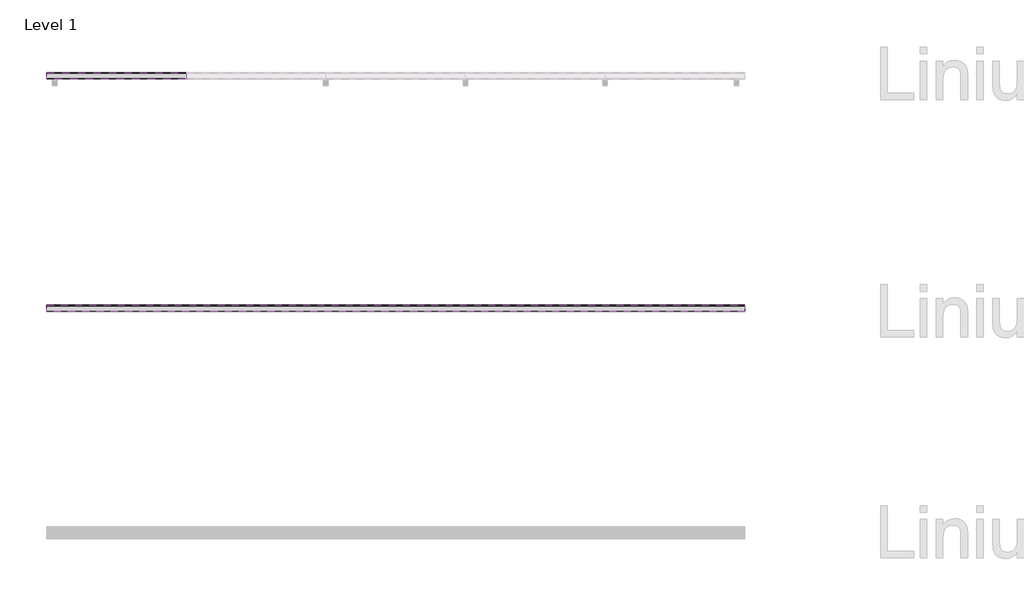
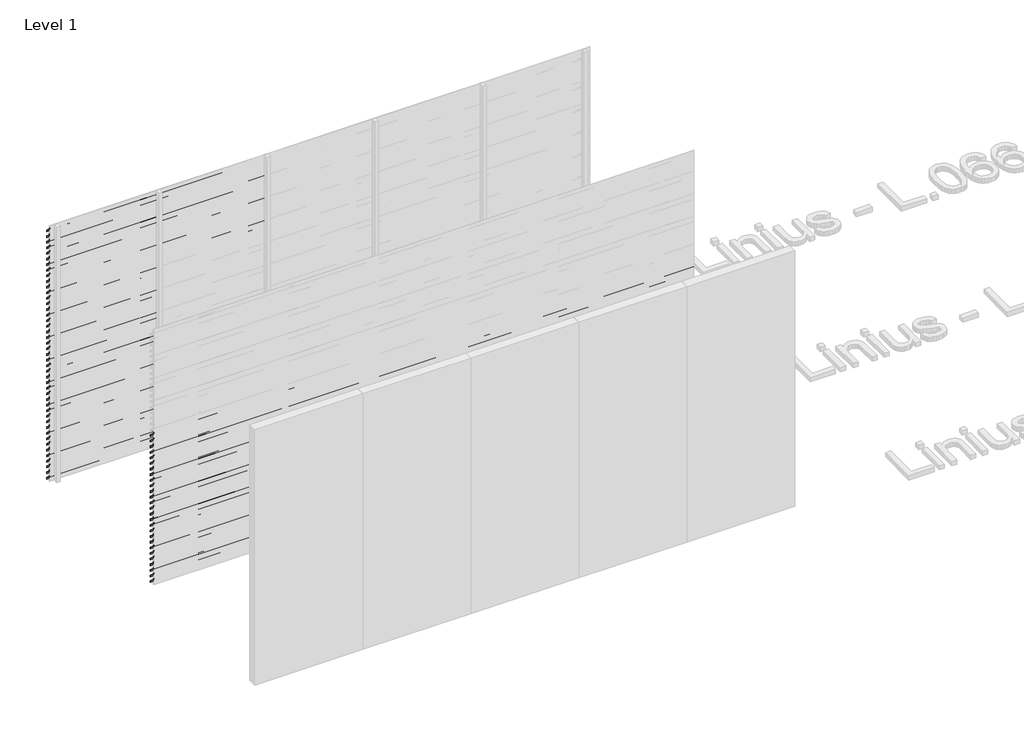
# One storey, part 67 of 540: 85 proxies.
"""IFC4 building model written with IfcOpenShell, lengths in millimetres."""

from ifc_helpers import new_model, si_unit, frame, origin, place, context, project, spatial, polyline, outline, extrude, element, save

model = new_model("IFC4")

# Units and contexts
model_context = context("Model", 3, world=origin())
ifc_project = project(units=[si_unit("LENGTHUNIT", "METRE", prefix="MILLI")], contexts=[model_context])

# Site, building, storey
site = spatial("IfcSite", under=ifc_project)
building = spatial("IfcBuilding", under=site)
storey = spatial("IfcBuildingStorey", under=building, Name="Level 1", Elevation=0.0)

# Proxies
placement = place(None, origin())
element("IfcBuildingElementProxy", 1, Name="Wall Sweeps", at=placement, inside=storey, context=model_context, shape_type="SweptSolid", body=[
    extrude(outline(polyline([(36581.0540136, 2913.5), (36581.0540136, 2893.5), (36579.8040136, 2894.2216933), (36579.8040136, 2912.7872415), (36526.0540136, 2950.3158044), (36526.0540136, 2970.0), (36527.3040136, 2970.0), (36527.3040136, 2951.0285629), (36581.0540136, 2913.5)])), frame((466.6208097, 0.0, 0.0), z_axis=(1.0, 0.0, 0.0), x_axis=(0.0, 1.0, 0.0)), (0.0, 0.0, 1.0), 1200.0000002),
])
element("IfcBuildingElementProxy", 2, Name="Wall Sweeps", at=placement, inside=storey, context=model_context, shape_type="SweptSolid", body=[
    extrude(outline(polyline([(36581.0540136, 2847.5), (36581.0540136, 2827.5), (36579.8040136, 2828.2216933), (36579.8040136, 2846.7872415), (36526.0540136, 2884.3158044), (36526.0540136, 2904.0), (36527.3040136, 2904.0), (36527.3040136, 2885.0285629), (36581.0540136, 2847.5)])), frame((466.6208097, 0.0, 0.0), z_axis=(1.0, 0.0, 0.0), x_axis=(0.0, 1.0, 0.0)), (0.0, 0.0, 1.0), 1200.0000002),
])
element("IfcBuildingElementProxy", 3, Name="Wall Sweeps", at=placement, inside=storey, context=model_context, shape_type="SweptSolid", body=[
    extrude(outline(polyline([(36581.0540136, 2781.5), (36581.0540136, 2761.5), (36579.8040136, 2762.2216933), (36579.8040136, 2780.7872415), (36526.0540136, 2818.3158044), (36526.0540136, 2838.0), (36527.3040136, 2838.0), (36527.3040136, 2819.0285629), (36581.0540136, 2781.5)])), frame((466.6208097, 0.0, 0.0), z_axis=(1.0, 0.0, 0.0), x_axis=(0.0, 1.0, 0.0)), (0.0, 0.0, 1.0), 1200.0000002),
])
element("IfcBuildingElementProxy", 4, Name="Wall Sweeps", at=placement, inside=storey, context=model_context, shape_type="SweptSolid", body=[
    extrude(outline(polyline([(36581.0540136, 2715.5), (36581.0540136, 2695.5), (36579.8040136, 2696.2216933), (36579.8040136, 2714.7872415), (36526.0540136, 2752.3158044), (36526.0540136, 2772.0), (36527.3040136, 2772.0), (36527.3040136, 2753.0285629), (36581.0540136, 2715.5)])), frame((466.6208097, 0.0, 0.0), z_axis=(1.0, 0.0, 0.0), x_axis=(0.0, 1.0, 0.0)), (0.0, 0.0, 1.0), 1200.0000002),
])
element("IfcBuildingElementProxy", 5, Name="Wall Sweeps", at=placement, inside=storey, context=model_context, shape_type="SweptSolid", body=[
    extrude(outline(polyline([(36581.0540136, 2649.5), (36581.0540136, 2629.5), (36579.8040136, 2630.2216933), (36579.8040136, 2648.7872415), (36526.0540136, 2686.3158044), (36526.0540136, 2706.0), (36527.3040136, 2706.0), (36527.3040136, 2687.0285629), (36581.0540136, 2649.5)])), frame((466.6208097, 0.0, 0.0), z_axis=(1.0, 0.0, 0.0), x_axis=(0.0, 1.0, 0.0)), (0.0, 0.0, 1.0), 1200.0000002),
])
element("IfcBuildingElementProxy", 6, Name="Wall Sweeps", at=placement, inside=storey, context=model_context, shape_type="SweptSolid", body=[
    extrude(outline(polyline([(36581.0540136, 2583.5), (36581.0540136, 2563.5), (36579.8040136, 2564.2216933), (36579.8040136, 2582.7872415), (36526.0540136, 2620.3158044), (36526.0540136, 2640.0), (36527.3040136, 2640.0), (36527.3040136, 2621.0285629), (36581.0540136, 2583.5)])), frame((466.6208097, 0.0, 0.0), z_axis=(1.0, 0.0, 0.0), x_axis=(0.0, 1.0, 0.0)), (0.0, 0.0, 1.0), 1200.0000002),
])
element("IfcBuildingElementProxy", 7, Name="Wall Sweeps", at=placement, inside=storey, context=model_context, shape_type="SweptSolid", body=[
    extrude(outline(polyline([(36581.0540136, 2517.5), (36581.0540136, 2497.5), (36579.8040136, 2498.2216933), (36579.8040136, 2516.7872415), (36526.0540136, 2554.3158044), (36526.0540136, 2574.0), (36527.3040136, 2574.0), (36527.3040136, 2555.0285629), (36581.0540136, 2517.5)])), frame((466.6208097, 0.0, 0.0), z_axis=(1.0, 0.0, 0.0), x_axis=(0.0, 1.0, 0.0)), (0.0, 0.0, 1.0), 1200.0000002),
])
element("IfcBuildingElementProxy", 8, Name="Wall Sweeps", at=placement, inside=storey, context=model_context, shape_type="SweptSolid", body=[
    extrude(outline(polyline([(36581.0540136, 2451.5), (36581.0540136, 2431.5), (36579.8040136, 2432.2216933), (36579.8040136, 2450.7872415), (36526.0540136, 2488.3158044), (36526.0540136, 2508.0), (36527.3040136, 2508.0), (36527.3040136, 2489.0285629), (36581.0540136, 2451.5)])), frame((466.6208097, 0.0, 0.0), z_axis=(1.0, 0.0, 0.0), x_axis=(0.0, 1.0, 0.0)), (0.0, 0.0, 1.0), 1200.0000002),
])
element("IfcBuildingElementProxy", 9, Name="Wall Sweeps", at=placement, inside=storey, context=model_context, shape_type="SweptSolid", body=[
    extrude(outline(polyline([(36581.0540136, 2385.5), (36581.0540136, 2365.5), (36579.8040136, 2366.2216933), (36579.8040136, 2384.7872415), (36526.0540136, 2422.3158044), (36526.0540136, 2442.0), (36527.3040136, 2442.0), (36527.3040136, 2423.0285629), (36581.0540136, 2385.5)])), frame((466.6208097, 0.0, 0.0), z_axis=(1.0, 0.0, 0.0), x_axis=(0.0, 1.0, 0.0)), (0.0, 0.0, 1.0), 1200.0000002),
])
element("IfcBuildingElementProxy", 10, Name="Wall Sweeps", at=placement, inside=storey, context=model_context, shape_type="SweptSolid", body=[
    extrude(outline(polyline([(36581.0540136, 2319.5), (36581.0540136, 2299.5), (36579.8040136, 2300.2216933), (36579.8040136, 2318.7872415), (36526.0540136, 2356.3158044), (36526.0540136, 2376.0), (36527.3040136, 2376.0), (36527.3040136, 2357.0285629), (36581.0540136, 2319.5)])), frame((466.6208097, 0.0, 0.0), z_axis=(1.0, 0.0, 0.0), x_axis=(0.0, 1.0, 0.0)), (0.0, 0.0, 1.0), 1200.0000002),
])
element("IfcBuildingElementProxy", 11, Name="Wall Sweeps", at=placement, inside=storey, context=model_context, shape_type="SweptSolid", body=[
    extrude(outline(polyline([(36581.0540136, 2253.5), (36581.0540136, 2233.5), (36579.8040136, 2234.2216933), (36579.8040136, 2252.7872415), (36526.0540136, 2290.3158044), (36526.0540136, 2310.0), (36527.3040136, 2310.0), (36527.3040136, 2291.0285629), (36581.0540136, 2253.5)])), frame((466.6208097, 0.0, 0.0), z_axis=(1.0, 0.0, 0.0), x_axis=(0.0, 1.0, 0.0)), (0.0, 0.0, 1.0), 1200.0000002),
])
element("IfcBuildingElementProxy", 12, Name="Wall Sweeps", at=placement, inside=storey, context=model_context, shape_type="SweptSolid", body=[
    extrude(outline(polyline([(36581.0540136, 2187.5), (36581.0540136, 2167.5), (36579.8040136, 2168.2216933), (36579.8040136, 2186.7872415), (36526.0540136, 2224.3158044), (36526.0540136, 2244.0), (36527.3040136, 2244.0), (36527.3040136, 2225.0285629), (36581.0540136, 2187.5)])), frame((466.6208097, 0.0, 0.0), z_axis=(1.0, 0.0, 0.0), x_axis=(0.0, 1.0, 0.0)), (0.0, 0.0, 1.0), 1200.0000002),
])
element("IfcBuildingElementProxy", 13, Name="Wall Sweeps", at=placement, inside=storey, context=model_context, shape_type="SweptSolid", body=[
    extrude(outline(polyline([(36581.0540136, 2121.5), (36581.0540136, 2101.5), (36579.8040136, 2102.2216933), (36579.8040136, 2120.7872415), (36526.0540136, 2158.3158044), (36526.0540136, 2178.0), (36527.3040136, 2178.0), (36527.3040136, 2159.0285629), (36581.0540136, 2121.5)])), frame((466.6208097, 0.0, 0.0), z_axis=(1.0, 0.0, 0.0), x_axis=(0.0, 1.0, 0.0)), (0.0, 0.0, 1.0), 1200.0000002),
])
element("IfcBuildingElementProxy", 14, Name="Wall Sweeps", at=placement, inside=storey, context=model_context, shape_type="SweptSolid", body=[
    extrude(outline(polyline([(36581.0540136, 2055.5), (36581.0540136, 2035.5), (36579.8040136, 2036.2216933), (36579.8040136, 2054.7872415), (36526.0540136, 2092.3158044), (36526.0540136, 2112.0), (36527.3040136, 2112.0), (36527.3040136, 2093.0285629), (36581.0540136, 2055.5)])), frame((466.6208097, 0.0, 0.0), z_axis=(1.0, 0.0, 0.0), x_axis=(0.0, 1.0, 0.0)), (0.0, 0.0, 1.0), 1200.0000002),
])
element("IfcBuildingElementProxy", 15, Name="Wall Sweeps", at=placement, inside=storey, context=model_context, shape_type="SweptSolid", body=[
    extrude(outline(polyline([(36581.0540136, 1989.5), (36581.0540136, 1969.5), (36579.8040136, 1970.2216933), (36579.8040136, 1988.7872415), (36526.0540136, 2026.3158044), (36526.0540136, 2046.0), (36527.3040136, 2046.0), (36527.3040136, 2027.0285629), (36581.0540136, 1989.5)])), frame((466.6208097, 0.0, 0.0), z_axis=(1.0, 0.0, 0.0), x_axis=(0.0, 1.0, 0.0)), (0.0, 0.0, 1.0), 1200.0000002),
])
element("IfcBuildingElementProxy", 16, Name="Wall Sweeps", at=placement, inside=storey, context=model_context, shape_type="SweptSolid", body=[
    extrude(outline(polyline([(36581.0540136, 1923.5), (36581.0540136, 1903.5), (36579.8040136, 1904.2216933), (36579.8040136, 1922.7872415), (36526.0540136, 1960.3158044), (36526.0540136, 1980.0), (36527.3040136, 1980.0), (36527.3040136, 1961.0285629), (36581.0540136, 1923.5)])), frame((466.6208097, 0.0, 0.0), z_axis=(1.0, 0.0, 0.0), x_axis=(0.0, 1.0, 0.0)), (0.0, 0.0, 1.0), 1200.0000002),
])
element("IfcBuildingElementProxy", 17, Name="Wall Sweeps", at=placement, inside=storey, context=model_context, shape_type="SweptSolid", body=[
    extrude(outline(polyline([(36581.0540136, 1857.5), (36581.0540136, 1837.5), (36579.8040136, 1838.2216933), (36579.8040136, 1856.7872415), (36526.0540136, 1894.3158044), (36526.0540136, 1914.0), (36527.3040136, 1914.0), (36527.3040136, 1895.0285629), (36581.0540136, 1857.5)])), frame((466.6208097, 0.0, 0.0), z_axis=(1.0, 0.0, 0.0), x_axis=(0.0, 1.0, 0.0)), (0.0, 0.0, 1.0), 1200.0000002),
])
element("IfcBuildingElementProxy", 18, Name="Wall Sweeps", at=placement, inside=storey, context=model_context, shape_type="SweptSolid", body=[
    extrude(outline(polyline([(36581.0540136, 1791.5), (36581.0540136, 1771.5), (36579.8040136, 1772.2216933), (36579.8040136, 1790.7872415), (36526.0540136, 1828.3158044), (36526.0540136, 1848.0), (36527.3040136, 1848.0), (36527.3040136, 1829.0285629), (36581.0540136, 1791.5)])), frame((466.6208097, 0.0, 0.0), z_axis=(1.0, 0.0, 0.0), x_axis=(0.0, 1.0, 0.0)), (0.0, 0.0, 1.0), 1200.0000002),
])
element("IfcBuildingElementProxy", 19, Name="Wall Sweeps", at=placement, inside=storey, context=model_context, shape_type="SweptSolid", body=[
    extrude(outline(polyline([(36581.0540136, 1725.5), (36581.0540136, 1705.5), (36579.8040136, 1706.2216933), (36579.8040136, 1724.7872415), (36526.0540136, 1762.3158044), (36526.0540136, 1782.0), (36527.3040136, 1782.0), (36527.3040136, 1763.0285629), (36581.0540136, 1725.5)])), frame((466.6208097, 0.0, 0.0), z_axis=(1.0, 0.0, 0.0), x_axis=(0.0, 1.0, 0.0)), (0.0, 0.0, 1.0), 1200.0000002),
])
element("IfcBuildingElementProxy", 20, Name="Wall Sweeps", at=placement, inside=storey, context=model_context, shape_type="SweptSolid", body=[
    extrude(outline(polyline([(36581.0540136, 1659.5), (36581.0540136, 1639.5), (36579.8040136, 1640.2216933), (36579.8040136, 1658.7872415), (36526.0540136, 1696.3158044), (36526.0540136, 1716.0), (36527.3040136, 1716.0), (36527.3040136, 1697.0285629), (36581.0540136, 1659.5)])), frame((466.6208097, 0.0, 0.0), z_axis=(1.0, 0.0, 0.0), x_axis=(0.0, 1.0, 0.0)), (0.0, 0.0, 1.0), 1200.0000002),
])
element("IfcBuildingElementProxy", 21, Name="Wall Sweeps", at=placement, inside=storey, context=model_context, shape_type="SweptSolid", body=[
    extrude(outline(polyline([(36581.0540136, 1593.5), (36581.0540136, 1573.5), (36579.8040136, 1574.2216933), (36579.8040136, 1592.7872415), (36526.0540136, 1630.3158044), (36526.0540136, 1650.0), (36527.3040136, 1650.0), (36527.3040136, 1631.0285629), (36581.0540136, 1593.5)])), frame((466.6208097, 0.0, 0.0), z_axis=(1.0, 0.0, 0.0), x_axis=(0.0, 1.0, 0.0)), (0.0, 0.0, 1.0), 1200.0000002),
])
element("IfcBuildingElementProxy", 22, Name="Wall Sweeps", at=placement, inside=storey, context=model_context, shape_type="SweptSolid", body=[
    extrude(outline(polyline([(36581.0540136, 1527.5), (36581.0540136, 1507.5), (36579.8040136, 1508.2216933), (36579.8040136, 1526.7872415), (36526.0540136, 1564.3158044), (36526.0540136, 1584.0), (36527.3040136, 1584.0), (36527.3040136, 1565.0285629), (36581.0540136, 1527.5)])), frame((466.6208097, 0.0, 0.0), z_axis=(1.0, 0.0, 0.0), x_axis=(0.0, 1.0, 0.0)), (0.0, 0.0, 1.0), 1200.0000002),
])
element("IfcBuildingElementProxy", 23, Name="Wall Sweeps", at=placement, inside=storey, context=model_context, shape_type="SweptSolid", body=[
    extrude(outline(polyline([(36581.0540136, 1461.5), (36581.0540136, 1441.5), (36579.8040136, 1442.2216933), (36579.8040136, 1460.7872415), (36526.0540136, 1498.3158044), (36526.0540136, 1518.0), (36527.3040136, 1518.0), (36527.3040136, 1499.0285629), (36581.0540136, 1461.5)])), frame((466.6208097, 0.0, 0.0), z_axis=(1.0, 0.0, 0.0), x_axis=(0.0, 1.0, 0.0)), (0.0, 0.0, 1.0), 1200.0000002),
])
element("IfcBuildingElementProxy", 24, Name="Wall Sweeps", at=placement, inside=storey, context=model_context, shape_type="SweptSolid", body=[
    extrude(outline(polyline([(36581.0540136, 1395.5), (36581.0540136, 1375.5), (36579.8040136, 1376.2216933), (36579.8040136, 1394.7872415), (36526.0540136, 1432.3158044), (36526.0540136, 1452.0), (36527.3040136, 1452.0), (36527.3040136, 1433.0285629), (36581.0540136, 1395.5)])), frame((466.6208097, 0.0, 0.0), z_axis=(1.0, 0.0, 0.0), x_axis=(0.0, 1.0, 0.0)), (0.0, 0.0, 1.0), 1200.0000002),
])
element("IfcBuildingElementProxy", 25, Name="Wall Sweeps", at=placement, inside=storey, context=model_context, shape_type="SweptSolid", body=[
    extrude(outline(polyline([(36581.0540136, 1329.5), (36581.0540136, 1309.5), (36579.8040136, 1310.2216933), (36579.8040136, 1328.7872415), (36526.0540136, 1366.3158044), (36526.0540136, 1386.0), (36527.3040136, 1386.0), (36527.3040136, 1367.0285629), (36581.0540136, 1329.5)])), frame((466.6208097, 0.0, 0.0), z_axis=(1.0, 0.0, 0.0), x_axis=(0.0, 1.0, 0.0)), (0.0, 0.0, 1.0), 1200.0000002),
])
element("IfcBuildingElementProxy", 26, Name="Wall Sweeps", at=placement, inside=storey, context=model_context, shape_type="SweptSolid", body=[
    extrude(outline(polyline([(36581.0540136, 1263.5), (36581.0540136, 1243.5), (36579.8040136, 1244.2216933), (36579.8040136, 1262.7872415), (36526.0540136, 1300.3158044), (36526.0540136, 1320.0), (36527.3040136, 1320.0), (36527.3040136, 1301.0285629), (36581.0540136, 1263.5)])), frame((466.6208097, 0.0, 0.0), z_axis=(1.0, 0.0, 0.0), x_axis=(0.0, 1.0, 0.0)), (0.0, 0.0, 1.0), 1200.0000002),
])
element("IfcBuildingElementProxy", 27, Name="Wall Sweeps", at=placement, inside=storey, context=model_context, shape_type="SweptSolid", body=[
    extrude(outline(polyline([(36581.0540136, 1197.5), (36581.0540136, 1177.5), (36579.8040136, 1178.2216933), (36579.8040136, 1196.7872415), (36526.0540136, 1234.3158044), (36526.0540136, 1254.0), (36527.3040136, 1254.0), (36527.3040136, 1235.0285629), (36581.0540136, 1197.5)])), frame((466.6208097, 0.0, 0.0), z_axis=(1.0, 0.0, 0.0), x_axis=(0.0, 1.0, 0.0)), (0.0, 0.0, 1.0), 1200.0000002),
])
element("IfcBuildingElementProxy", 28, Name="Wall Sweeps", at=placement, inside=storey, context=model_context, shape_type="SweptSolid", body=[
    extrude(outline(polyline([(36581.0540136, 1131.5), (36581.0540136, 1111.5), (36579.8040136, 1112.2216933), (36579.8040136, 1130.7872415), (36526.0540136, 1168.3158044), (36526.0540136, 1188.0), (36527.3040136, 1188.0), (36527.3040136, 1169.0285629), (36581.0540136, 1131.5)])), frame((466.6208097, 0.0, 0.0), z_axis=(1.0, 0.0, 0.0), x_axis=(0.0, 1.0, 0.0)), (0.0, 0.0, 1.0), 1200.0000002),
])
element("IfcBuildingElementProxy", 29, Name="Wall Sweeps", at=placement, inside=storey, context=model_context, shape_type="SweptSolid", body=[
    extrude(outline(polyline([(36581.0540136, 1065.5), (36581.0540136, 1045.5), (36579.8040136, 1046.2216933), (36579.8040136, 1064.7872415), (36526.0540136, 1102.3158044), (36526.0540136, 1122.0), (36527.3040136, 1122.0), (36527.3040136, 1103.0285629), (36581.0540136, 1065.5)])), frame((466.6208097, 0.0, 0.0), z_axis=(1.0, 0.0, 0.0), x_axis=(0.0, 1.0, 0.0)), (0.0, 0.0, 1.0), 1200.0000002),
])
element("IfcBuildingElementProxy", 30, Name="Wall Sweeps", at=placement, inside=storey, context=model_context, shape_type="SweptSolid", body=[
    extrude(outline(polyline([(36581.0540136, 999.5), (36581.0540136, 979.5), (36579.8040136, 980.2216933), (36579.8040136, 998.7872415), (36526.0540136, 1036.3158044), (36526.0540136, 1056.0), (36527.3040136, 1056.0), (36527.3040136, 1037.0285629), (36581.0540136, 999.5)])), frame((466.6208097, 0.0, 0.0), z_axis=(1.0, 0.0, 0.0), x_axis=(0.0, 1.0, 0.0)), (0.0, 0.0, 1.0), 1200.0000002),
])
element("IfcBuildingElementProxy", 31, Name="Wall Sweeps", at=placement, inside=storey, context=model_context, shape_type="SweptSolid", body=[
    extrude(outline(polyline([(36581.0540136, 933.5), (36581.0540136, 913.5), (36579.8040136, 914.2216933), (36579.8040136, 932.7872415), (36526.0540136, 970.3158044), (36526.0540136, 990.0), (36527.3040136, 990.0), (36527.3040136, 971.0285629), (36581.0540136, 933.5)])), frame((466.6208097, 0.0, 0.0), z_axis=(1.0, 0.0, 0.0), x_axis=(0.0, 1.0, 0.0)), (0.0, 0.0, 1.0), 1200.0000002),
])
element("IfcBuildingElementProxy", 32, Name="Wall Sweeps", at=placement, inside=storey, context=model_context, shape_type="SweptSolid", body=[
    extrude(outline(polyline([(36581.0540136, 867.5), (36581.0540136, 847.5), (36579.8040136, 848.2216933), (36579.8040136, 866.7872415), (36526.0540136, 904.3158044), (36526.0540136, 924.0), (36527.3040136, 924.0), (36527.3040136, 905.0285629), (36581.0540136, 867.5)])), frame((466.6208097, 0.0, 0.0), z_axis=(1.0, 0.0, 0.0), x_axis=(0.0, 1.0, 0.0)), (0.0, 0.0, 1.0), 1200.0000002),
])
element("IfcBuildingElementProxy", 33, Name="Wall Sweeps", at=placement, inside=storey, context=model_context, shape_type="SweptSolid", body=[
    extrude(outline(polyline([(36581.0540136, 801.5), (36581.0540136, 781.5), (36579.8040136, 782.2216933), (36579.8040136, 800.7872415), (36526.0540136, 838.3158044), (36526.0540136, 858.0), (36527.3040136, 858.0), (36527.3040136, 839.0285629), (36581.0540136, 801.5)])), frame((466.6208097, 0.0, 0.0), z_axis=(1.0, 0.0, 0.0), x_axis=(0.0, 1.0, 0.0)), (0.0, 0.0, 1.0), 1200.0000002),
])
element("IfcBuildingElementProxy", 34, Name="Wall Sweeps", at=placement, inside=storey, context=model_context, shape_type="SweptSolid", body=[
    extrude(outline(polyline([(36581.0540136, 735.5), (36581.0540136, 715.5), (36579.8040136, 716.2216933), (36579.8040136, 734.7872415), (36526.0540136, 772.3158044), (36526.0540136, 792.0), (36527.3040136, 792.0), (36527.3040136, 773.0285629), (36581.0540136, 735.5)])), frame((466.6208097, 0.0, 0.0), z_axis=(1.0, 0.0, 0.0), x_axis=(0.0, 1.0, 0.0)), (0.0, 0.0, 1.0), 1200.0000002),
])
element("IfcBuildingElementProxy", 35, Name="Wall Sweeps", at=placement, inside=storey, context=model_context, shape_type="SweptSolid", body=[
    extrude(outline(polyline([(36581.0540136, 669.5), (36581.0540136, 649.5), (36579.8040136, 650.2216933), (36579.8040136, 668.7872415), (36526.0540136, 706.3158044), (36526.0540136, 726.0), (36527.3040136, 726.0), (36527.3040136, 707.0285629), (36581.0540136, 669.5)])), frame((466.6208097, 0.0, 0.0), z_axis=(1.0, 0.0, 0.0), x_axis=(0.0, 1.0, 0.0)), (0.0, 0.0, 1.0), 1200.0000002),
])
element("IfcBuildingElementProxy", 36, Name="Wall Sweeps", at=placement, inside=storey, context=model_context, shape_type="SweptSolid", body=[
    extrude(outline(polyline([(36581.0540136, 603.5), (36581.0540136, 583.5), (36579.8040136, 584.2216933), (36579.8040136, 602.7872415), (36526.0540136, 640.3158044), (36526.0540136, 660.0), (36527.3040136, 660.0), (36527.3040136, 641.0285629), (36581.0540136, 603.5)])), frame((466.6208097, 0.0, 0.0), z_axis=(1.0, 0.0, 0.0), x_axis=(0.0, 1.0, 0.0)), (0.0, 0.0, 1.0), 1200.0000002),
])
element("IfcBuildingElementProxy", 37, Name="Wall Sweeps", at=placement, inside=storey, context=model_context, shape_type="SweptSolid", body=[
    extrude(outline(polyline([(36581.0540136, 537.5), (36581.0540136, 517.5), (36579.8040136, 518.2216933), (36579.8040136, 536.7872415), (36526.0540136, 574.3158044), (36526.0540136, 594.0), (36527.3040136, 594.0), (36527.3040136, 575.0285629), (36581.0540136, 537.5)])), frame((466.6208097, 0.0, 0.0), z_axis=(1.0, 0.0, 0.0), x_axis=(0.0, 1.0, 0.0)), (0.0, 0.0, 1.0), 1200.0000002),
])
element("IfcBuildingElementProxy", 38, Name="Wall Sweeps", at=placement, inside=storey, context=model_context, shape_type="SweptSolid", body=[
    extrude(outline(polyline([(36581.0540136, 471.5), (36581.0540136, 451.5), (36579.8040136, 452.2216933), (36579.8040136, 470.7872415), (36526.0540136, 508.3158044), (36526.0540136, 528.0), (36527.3040136, 528.0), (36527.3040136, 509.0285629), (36581.0540136, 471.5)])), frame((466.6208097, 0.0, 0.0), z_axis=(1.0, 0.0, 0.0), x_axis=(0.0, 1.0, 0.0)), (0.0, 0.0, 1.0), 1200.0000002),
])
element("IfcBuildingElementProxy", 39, Name="Wall Sweeps", at=placement, inside=storey, context=model_context, shape_type="SweptSolid", body=[
    extrude(outline(polyline([(36581.0540136, 405.5), (36581.0540136, 385.5), (36579.8040136, 386.2216933), (36579.8040136, 404.7872415), (36526.0540136, 442.3158044), (36526.0540136, 462.0), (36527.3040136, 462.0), (36527.3040136, 443.0285629), (36581.0540136, 405.5)])), frame((466.6208097, 0.0, 0.0), z_axis=(1.0, 0.0, 0.0), x_axis=(0.0, 1.0, 0.0)), (0.0, 0.0, 1.0), 1200.0000002),
])
element("IfcBuildingElementProxy", 40, Name="Wall Sweeps", at=placement, inside=storey, context=model_context, shape_type="SweptSolid", body=[
    extrude(outline(polyline([(36581.0540136, 339.5), (36581.0540136, 319.5), (36579.8040136, 320.2216933), (36579.8040136, 338.7872415), (36526.0540136, 376.3158044), (36526.0540136, 396.0), (36527.3040136, 396.0), (36527.3040136, 377.0285629), (36581.0540136, 339.5)])), frame((466.6208097, 0.0, 0.0), z_axis=(1.0, 0.0, 0.0), x_axis=(0.0, 1.0, 0.0)), (0.0, 0.0, 1.0), 1200.0000002),
])
element("IfcBuildingElementProxy", 41, Name="Wall Sweeps", at=placement, inside=storey, context=model_context, shape_type="SweptSolid", body=[
    extrude(outline(polyline([(36581.0540136, 273.5), (36581.0540136, 253.5), (36579.8040136, 254.2216933), (36579.8040136, 272.7872415), (36526.0540136, 310.3158044), (36526.0540136, 330.0), (36527.3040136, 330.0), (36527.3040136, 311.0285629), (36581.0540136, 273.5)])), frame((466.6208097, 0.0, 0.0), z_axis=(1.0, 0.0, 0.0), x_axis=(0.0, 1.0, 0.0)), (0.0, 0.0, 1.0), 1200.0000002),
])
element("IfcBuildingElementProxy", 42, Name="Wall Sweeps", at=placement, inside=storey, context=model_context, shape_type="SweptSolid", body=[
    extrude(outline(polyline([(36581.0540136, 207.5), (36581.0540136, 187.5), (36579.8040136, 188.2216933), (36579.8040136, 206.7872415), (36526.0540136, 244.3158044), (36526.0540136, 264.0), (36527.3040136, 264.0), (36527.3040136, 245.0285629), (36581.0540136, 207.5)])), frame((466.6208097, 0.0, 0.0), z_axis=(1.0, 0.0, 0.0), x_axis=(0.0, 1.0, 0.0)), (0.0, 0.0, 1.0), 1200.0000002),
])
element("IfcBuildingElementProxy", 43, Name="Wall Sweeps", at=placement, inside=storey, context=model_context, shape_type="SweptSolid", body=[
    extrude(outline(polyline([(36581.0540136, 141.5), (36581.0540136, 121.5), (36579.8040136, 122.2216933), (36579.8040136, 140.7872415), (36526.0540136, 178.3158044), (36526.0540136, 198.0), (36527.3040136, 198.0), (36527.3040136, 179.0285629), (36581.0540136, 141.5)])), frame((466.6208097, 0.0, 0.0), z_axis=(1.0, 0.0, 0.0), x_axis=(0.0, 1.0, 0.0)), (0.0, 0.0, 1.0), 1200.0000002),
])
element("IfcBuildingElementProxy", 44, Name="Wall Sweeps", at=placement, inside=storey, context=model_context, shape_type="SweptSolid", body=[
    extrude(outline(polyline([(36581.0540136, 75.5), (36581.0540136, 55.5), (36579.8040136, 56.2216933), (36579.8040136, 74.7872415), (36526.0540136, 112.3158044), (36526.0540136, 132.0), (36527.3040136, 132.0), (36527.3040136, 113.0285629), (36581.0540136, 75.5)])), frame((466.6208097, 0.0, 0.0), z_axis=(1.0, 0.0, 0.0), x_axis=(0.0, 1.0, 0.0)), (0.0, 0.0, 1.0), 1200.0000002),
])
element("IfcBuildingElementProxy", 45, Name="Wall Sweeps", at=placement, inside=storey, context=model_context, shape_type="SweptSolid", body=[
    extrude(outline(polyline([(36581.0540136, 9.5), (36581.0540136, -10.5), (36579.8040136, -9.7783067), (36579.8040136, 8.7872415), (36526.0540136, 46.3158044), (36526.0540136, 66.0), (36527.3040136, 66.0), (36527.3040136, 47.0285629), (36581.0540136, 9.5)])), frame((466.6208097, 0.0, 0.0), z_axis=(1.0, 0.0, 0.0), x_axis=(0.0, 1.0, 0.0)), (0.0, 0.0, 1.0), 1200.0000002),
])
element("IfcBuildingElementProxy", 46, Name="Wall Sweeps", at=placement, inside=storey, context=model_context, shape_type="SweptSolid", body=[
    extrude(outline(polyline([(36581.0540136, 2913.5), (36581.0540136, 2893.5), (36579.8040136, 2894.2216933), (36579.8040136, 2912.7872415), (36526.0540136, 2950.3158044), (36526.0540136, 2970.0), (36527.3040136, 2970.0), (36527.3040136, 2951.0285629), (36581.0540136, 2913.5)])), frame((1666.6208099, 0.0, 0.0), z_axis=(1.0, 0.0, 0.0), x_axis=(0.0, 1.0, 0.0)), (0.0, 0.0, 1.0), 1199.9999999),
])
element("IfcBuildingElementProxy", 47, Name="Wall Sweeps", at=placement, inside=storey, context=model_context, shape_type="SweptSolid", body=[
    extrude(outline(polyline([(36581.0540136, 2847.5), (36581.0540136, 2827.5), (36579.8040136, 2828.2216933), (36579.8040136, 2846.7872415), (36526.0540136, 2884.3158044), (36526.0540136, 2904.0), (36527.3040136, 2904.0), (36527.3040136, 2885.0285629), (36581.0540136, 2847.5)])), frame((1666.6208099, 0.0, 0.0), z_axis=(1.0, 0.0, 0.0), x_axis=(0.0, 1.0, 0.0)), (0.0, 0.0, 1.0), 1199.9999999),
])
element("IfcBuildingElementProxy", 48, Name="Wall Sweeps", at=placement, inside=storey, context=model_context, shape_type="SweptSolid", body=[
    extrude(outline(polyline([(36581.0540136, 2781.5), (36581.0540136, 2761.5), (36579.8040136, 2762.2216933), (36579.8040136, 2780.7872415), (36526.0540136, 2818.3158044), (36526.0540136, 2838.0), (36527.3040136, 2838.0), (36527.3040136, 2819.0285629), (36581.0540136, 2781.5)])), frame((1666.6208099, 0.0, 0.0), z_axis=(1.0, 0.0, 0.0), x_axis=(0.0, 1.0, 0.0)), (0.0, 0.0, 1.0), 1199.9999999),
])
element("IfcBuildingElementProxy", 49, Name="Wall Sweeps", at=placement, inside=storey, context=model_context, shape_type="SweptSolid", body=[
    extrude(outline(polyline([(36581.0540136, 2715.5), (36581.0540136, 2695.5), (36579.8040136, 2696.2216933), (36579.8040136, 2714.7872415), (36526.0540136, 2752.3158044), (36526.0540136, 2772.0), (36527.3040136, 2772.0), (36527.3040136, 2753.0285629), (36581.0540136, 2715.5)])), frame((1666.6208099, 0.0, 0.0), z_axis=(1.0, 0.0, 0.0), x_axis=(0.0, 1.0, 0.0)), (0.0, 0.0, 1.0), 1199.9999999),
])
element("IfcBuildingElementProxy", 50, Name="Wall Sweeps", at=placement, inside=storey, context=model_context, shape_type="SweptSolid", body=[
    extrude(outline(polyline([(36581.0540136, 2649.5), (36581.0540136, 2629.5), (36579.8040136, 2630.2216933), (36579.8040136, 2648.7872415), (36526.0540136, 2686.3158044), (36526.0540136, 2706.0), (36527.3040136, 2706.0), (36527.3040136, 2687.0285629), (36581.0540136, 2649.5)])), frame((1666.6208099, 0.0, 0.0), z_axis=(1.0, 0.0, 0.0), x_axis=(0.0, 1.0, 0.0)), (0.0, 0.0, 1.0), 1199.9999999),
])
element("IfcBuildingElementProxy", 51, Name="Wall Sweeps", at=placement, inside=storey, context=model_context, shape_type="SweptSolid", body=[
    extrude(outline(polyline([(36581.0540136, 2583.5), (36581.0540136, 2563.5), (36579.8040136, 2564.2216933), (36579.8040136, 2582.7872415), (36526.0540136, 2620.3158044), (36526.0540136, 2640.0), (36527.3040136, 2640.0), (36527.3040136, 2621.0285629), (36581.0540136, 2583.5)])), frame((1666.6208099, 0.0, 0.0), z_axis=(1.0, 0.0, 0.0), x_axis=(0.0, 1.0, 0.0)), (0.0, 0.0, 1.0), 1199.9999999),
])
element("IfcBuildingElementProxy", 52, Name="Wall Sweeps", at=placement, inside=storey, context=model_context, shape_type="SweptSolid", body=[
    extrude(outline(polyline([(36581.0540136, 2517.5), (36581.0540136, 2497.5), (36579.8040136, 2498.2216933), (36579.8040136, 2516.7872415), (36526.0540136, 2554.3158044), (36526.0540136, 2574.0), (36527.3040136, 2574.0), (36527.3040136, 2555.0285629), (36581.0540136, 2517.5)])), frame((1666.6208099, 0.0, 0.0), z_axis=(1.0, 0.0, 0.0), x_axis=(0.0, 1.0, 0.0)), (0.0, 0.0, 1.0), 1199.9999999),
])
element("IfcBuildingElementProxy", 53, Name="Wall Sweeps", at=placement, inside=storey, context=model_context, shape_type="SweptSolid", body=[
    extrude(outline(polyline([(36581.0540136, 2451.5), (36581.0540136, 2431.5), (36579.8040136, 2432.2216933), (36579.8040136, 2450.7872415), (36526.0540136, 2488.3158044), (36526.0540136, 2508.0), (36527.3040136, 2508.0), (36527.3040136, 2489.0285629), (36581.0540136, 2451.5)])), frame((1666.6208099, 0.0, 0.0), z_axis=(1.0, 0.0, 0.0), x_axis=(0.0, 1.0, 0.0)), (0.0, 0.0, 1.0), 1199.9999999),
])
element("IfcBuildingElementProxy", 54, Name="Wall Sweeps", at=placement, inside=storey, context=model_context, shape_type="SweptSolid", body=[
    extrude(outline(polyline([(36581.0540136, 2385.5), (36581.0540136, 2365.5), (36579.8040136, 2366.2216933), (36579.8040136, 2384.7872415), (36526.0540136, 2422.3158044), (36526.0540136, 2442.0), (36527.3040136, 2442.0), (36527.3040136, 2423.0285629), (36581.0540136, 2385.5)])), frame((1666.6208099, 0.0, 0.0), z_axis=(1.0, 0.0, 0.0), x_axis=(0.0, 1.0, 0.0)), (0.0, 0.0, 1.0), 1199.9999999),
])
element("IfcBuildingElementProxy", 55, Name="Wall Sweeps", at=placement, inside=storey, context=model_context, shape_type="SweptSolid", body=[
    extrude(outline(polyline([(36581.0540136, 2319.5), (36581.0540136, 2299.5), (36579.8040136, 2300.2216933), (36579.8040136, 2318.7872415), (36526.0540136, 2356.3158044), (36526.0540136, 2376.0), (36527.3040136, 2376.0), (36527.3040136, 2357.0285629), (36581.0540136, 2319.5)])), frame((1666.6208099, 0.0, 0.0), z_axis=(1.0, 0.0, 0.0), x_axis=(0.0, 1.0, 0.0)), (0.0, 0.0, 1.0), 1199.9999999),
])
element("IfcBuildingElementProxy", 56, Name="Wall Sweeps", at=placement, inside=storey, context=model_context, shape_type="SweptSolid", body=[
    extrude(outline(polyline([(36581.0540136, 2253.5), (36581.0540136, 2233.5), (36579.8040136, 2234.2216933), (36579.8040136, 2252.7872415), (36526.0540136, 2290.3158044), (36526.0540136, 2310.0), (36527.3040136, 2310.0), (36527.3040136, 2291.0285629), (36581.0540136, 2253.5)])), frame((1666.6208099, 0.0, 0.0), z_axis=(1.0, 0.0, 0.0), x_axis=(0.0, 1.0, 0.0)), (0.0, 0.0, 1.0), 1199.9999999),
])
element("IfcBuildingElementProxy", 57, Name="Wall Sweeps", at=placement, inside=storey, context=model_context, shape_type="SweptSolid", body=[
    extrude(outline(polyline([(36581.0540136, 2187.5), (36581.0540136, 2167.5), (36579.8040136, 2168.2216933), (36579.8040136, 2186.7872415), (36526.0540136, 2224.3158044), (36526.0540136, 2244.0), (36527.3040136, 2244.0), (36527.3040136, 2225.0285629), (36581.0540136, 2187.5)])), frame((1666.6208099, 0.0, 0.0), z_axis=(1.0, 0.0, 0.0), x_axis=(0.0, 1.0, 0.0)), (0.0, 0.0, 1.0), 1199.9999999),
])
element("IfcBuildingElementProxy", 58, Name="Wall Sweeps", at=placement, inside=storey, context=model_context, shape_type="SweptSolid", body=[
    extrude(outline(polyline([(36581.0540136, 2121.5), (36581.0540136, 2101.5), (36579.8040136, 2102.2216933), (36579.8040136, 2120.7872415), (36526.0540136, 2158.3158044), (36526.0540136, 2178.0), (36527.3040136, 2178.0), (36527.3040136, 2159.0285629), (36581.0540136, 2121.5)])), frame((1666.6208099, 0.0, 0.0), z_axis=(1.0, 0.0, 0.0), x_axis=(0.0, 1.0, 0.0)), (0.0, 0.0, 1.0), 1199.9999999),
])
element("IfcBuildingElementProxy", 59, Name="Wall Sweeps", at=placement, inside=storey, context=model_context, shape_type="SweptSolid", body=[
    extrude(outline(polyline([(34581.0540136, 1725.5), (34581.0540136, 1705.5), (34579.8040136, 1706.2216933), (34579.8040136, 1724.7872415), (34526.0540136, 1762.3158044), (34526.0540136, 1782.0), (34527.3040136, 1782.0), (34527.3040136, 1763.0285629), (34581.0540136, 1725.5)])), frame((466.6208097, 0.0, 0.0), z_axis=(1.0, 0.0, 0.0), x_axis=(0.0, 1.0, 0.0)), (0.0, 0.0, 1.0), 6000.0),
])
element("IfcBuildingElementProxy", 60, Name="Wall Sweeps", at=placement, inside=storey, context=model_context, shape_type="SweptSolid", body=[
    extrude(outline(polyline([(34581.0540136, 1659.5), (34581.0540136, 1639.5), (34579.8040136, 1640.2216933), (34579.8040136, 1658.7872415), (34526.0540136, 1696.3158044), (34526.0540136, 1716.0), (34527.3040136, 1716.0), (34527.3040136, 1697.0285629), (34581.0540136, 1659.5)])), frame((466.6208097, 0.0, 0.0), z_axis=(1.0, 0.0, 0.0), x_axis=(0.0, 1.0, 0.0)), (0.0, 0.0, 1.0), 6000.0),
])
element("IfcBuildingElementProxy", 61, Name="Wall Sweeps", at=placement, inside=storey, context=model_context, shape_type="SweptSolid", body=[
    extrude(outline(polyline([(34581.0540136, 1593.5), (34581.0540136, 1573.5), (34579.8040136, 1574.2216933), (34579.8040136, 1592.7872415), (34526.0540136, 1630.3158044), (34526.0540136, 1650.0), (34527.3040136, 1650.0), (34527.3040136, 1631.0285629), (34581.0540136, 1593.5)])), frame((466.6208097, 0.0, 0.0), z_axis=(1.0, 0.0, 0.0), x_axis=(0.0, 1.0, 0.0)), (0.0, 0.0, 1.0), 6000.0),
])
element("IfcBuildingElementProxy", 62, Name="Wall Sweeps", at=placement, inside=storey, context=model_context, shape_type="SweptSolid", body=[
    extrude(outline(polyline([(34581.0540136, 1527.5), (34581.0540136, 1507.5), (34579.8040136, 1508.2216933), (34579.8040136, 1526.7872415), (34526.0540136, 1564.3158044), (34526.0540136, 1584.0), (34527.3040136, 1584.0), (34527.3040136, 1565.0285629), (34581.0540136, 1527.5)])), frame((466.6208097, 0.0, 0.0), z_axis=(1.0, 0.0, 0.0), x_axis=(0.0, 1.0, 0.0)), (0.0, 0.0, 1.0), 6000.0),
])
element("IfcBuildingElementProxy", 63, Name="Wall Sweeps", at=placement, inside=storey, context=model_context, shape_type="SweptSolid", body=[
    extrude(outline(polyline([(34581.0540136, 1461.5), (34581.0540136, 1441.5), (34579.8040136, 1442.2216933), (34579.8040136, 1460.7872415), (34526.0540136, 1498.3158044), (34526.0540136, 1518.0), (34527.3040136, 1518.0), (34527.3040136, 1499.0285629), (34581.0540136, 1461.5)])), frame((466.6208097, 0.0, 0.0), z_axis=(1.0, 0.0, 0.0), x_axis=(0.0, 1.0, 0.0)), (0.0, 0.0, 1.0), 6000.0),
])
element("IfcBuildingElementProxy", 64, Name="Wall Sweeps", at=placement, inside=storey, context=model_context, shape_type="SweptSolid", body=[
    extrude(outline(polyline([(34581.0540136, 1395.5), (34581.0540136, 1375.5), (34579.8040136, 1376.2216933), (34579.8040136, 1394.7872415), (34526.0540136, 1432.3158044), (34526.0540136, 1452.0), (34527.3040136, 1452.0), (34527.3040136, 1433.0285629), (34581.0540136, 1395.5)])), frame((466.6208097, 0.0, 0.0), z_axis=(1.0, 0.0, 0.0), x_axis=(0.0, 1.0, 0.0)), (0.0, 0.0, 1.0), 6000.0),
])
element("IfcBuildingElementProxy", 65, Name="Wall Sweeps", at=placement, inside=storey, context=model_context, shape_type="SweptSolid", body=[
    extrude(outline(polyline([(34581.0540136, 1329.5), (34581.0540136, 1309.5), (34579.8040136, 1310.2216933), (34579.8040136, 1328.7872415), (34526.0540136, 1366.3158044), (34526.0540136, 1386.0), (34527.3040136, 1386.0), (34527.3040136, 1367.0285629), (34581.0540136, 1329.5)])), frame((466.6208097, 0.0, 0.0), z_axis=(1.0, 0.0, 0.0), x_axis=(0.0, 1.0, 0.0)), (0.0, 0.0, 1.0), 6000.0),
])
element("IfcBuildingElementProxy", 66, Name="Wall Sweeps", at=placement, inside=storey, context=model_context, shape_type="SweptSolid", body=[
    extrude(outline(polyline([(34581.0540136, 1263.5), (34581.0540136, 1243.5), (34579.8040136, 1244.2216933), (34579.8040136, 1262.7872415), (34526.0540136, 1300.3158044), (34526.0540136, 1320.0), (34527.3040136, 1320.0), (34527.3040136, 1301.0285629), (34581.0540136, 1263.5)])), frame((466.6208097, 0.0, 0.0), z_axis=(1.0, 0.0, 0.0), x_axis=(0.0, 1.0, 0.0)), (0.0, 0.0, 1.0), 6000.0),
])
element("IfcBuildingElementProxy", 67, Name="Wall Sweeps", at=placement, inside=storey, context=model_context, shape_type="SweptSolid", body=[
    extrude(outline(polyline([(34581.0540136, 1197.5), (34581.0540136, 1177.5), (34579.8040136, 1178.2216933), (34579.8040136, 1196.7872415), (34526.0540136, 1234.3158044), (34526.0540136, 1254.0), (34527.3040136, 1254.0), (34527.3040136, 1235.0285629), (34581.0540136, 1197.5)])), frame((466.6208097, 0.0, 0.0), z_axis=(1.0, 0.0, 0.0), x_axis=(0.0, 1.0, 0.0)), (0.0, 0.0, 1.0), 6000.0),
])
element("IfcBuildingElementProxy", 68, Name="Wall Sweeps", at=placement, inside=storey, context=model_context, shape_type="SweptSolid", body=[
    extrude(outline(polyline([(34581.0540136, 1131.5), (34581.0540136, 1111.5), (34579.8040136, 1112.2216933), (34579.8040136, 1130.7872415), (34526.0540136, 1168.3158044), (34526.0540136, 1188.0), (34527.3040136, 1188.0), (34527.3040136, 1169.0285629), (34581.0540136, 1131.5)])), frame((466.6208097, 0.0, 0.0), z_axis=(1.0, 0.0, 0.0), x_axis=(0.0, 1.0, 0.0)), (0.0, 0.0, 1.0), 6000.0),
])
element("IfcBuildingElementProxy", 69, Name="Wall Sweeps", at=placement, inside=storey, context=model_context, shape_type="SweptSolid", body=[
    extrude(outline(polyline([(34581.0540136, 1065.5), (34581.0540136, 1045.5), (34579.8040136, 1046.2216933), (34579.8040136, 1064.7872415), (34526.0540136, 1102.3158044), (34526.0540136, 1122.0), (34527.3040136, 1122.0), (34527.3040136, 1103.0285629), (34581.0540136, 1065.5)])), frame((466.6208097, 0.0, 0.0), z_axis=(1.0, 0.0, 0.0), x_axis=(0.0, 1.0, 0.0)), (0.0, 0.0, 1.0), 6000.0),
])
element("IfcBuildingElementProxy", 70, Name="Wall Sweeps", at=placement, inside=storey, context=model_context, shape_type="SweptSolid", body=[
    extrude(outline(polyline([(34581.0540136, 999.5), (34581.0540136, 979.5), (34579.8040136, 980.2216933), (34579.8040136, 998.7872415), (34526.0540136, 1036.3158044), (34526.0540136, 1056.0), (34527.3040136, 1056.0), (34527.3040136, 1037.0285629), (34581.0540136, 999.5)])), frame((466.6208097, 0.0, 0.0), z_axis=(1.0, 0.0, 0.0), x_axis=(0.0, 1.0, 0.0)), (0.0, 0.0, 1.0), 6000.0),
])
element("IfcBuildingElementProxy", 71, Name="Wall Sweeps", at=placement, inside=storey, context=model_context, shape_type="SweptSolid", body=[
    extrude(outline(polyline([(34581.0540136, 933.5), (34581.0540136, 913.5), (34579.8040136, 914.2216933), (34579.8040136, 932.7872415), (34526.0540136, 970.3158044), (34526.0540136, 990.0), (34527.3040136, 990.0), (34527.3040136, 971.0285629), (34581.0540136, 933.5)])), frame((466.6208097, 0.0, 0.0), z_axis=(1.0, 0.0, 0.0), x_axis=(0.0, 1.0, 0.0)), (0.0, 0.0, 1.0), 6000.0),
])
element("IfcBuildingElementProxy", 72, Name="Wall Sweeps", at=placement, inside=storey, context=model_context, shape_type="SweptSolid", body=[
    extrude(outline(polyline([(34581.0540136, 867.5), (34581.0540136, 847.5), (34579.8040136, 848.2216933), (34579.8040136, 866.7872415), (34526.0540136, 904.3158044), (34526.0540136, 924.0), (34527.3040136, 924.0), (34527.3040136, 905.0285629), (34581.0540136, 867.5)])), frame((466.6208097, 0.0, 0.0), z_axis=(1.0, 0.0, 0.0), x_axis=(0.0, 1.0, 0.0)), (0.0, 0.0, 1.0), 6000.0),
])
element("IfcBuildingElementProxy", 73, Name="Wall Sweeps", at=placement, inside=storey, context=model_context, shape_type="SweptSolid", body=[
    extrude(outline(polyline([(34581.0540136, 801.5), (34581.0540136, 781.5), (34579.8040136, 782.2216933), (34579.8040136, 800.7872415), (34526.0540136, 838.3158044), (34526.0540136, 858.0), (34527.3040136, 858.0), (34527.3040136, 839.0285629), (34581.0540136, 801.5)])), frame((466.6208097, 0.0, 0.0), z_axis=(1.0, 0.0, 0.0), x_axis=(0.0, 1.0, 0.0)), (0.0, 0.0, 1.0), 6000.0),
])
element("IfcBuildingElementProxy", 74, Name="Wall Sweeps", at=placement, inside=storey, context=model_context, shape_type="SweptSolid", body=[
    extrude(outline(polyline([(34581.0540136, 735.5), (34581.0540136, 715.5), (34579.8040136, 716.2216933), (34579.8040136, 734.7872415), (34526.0540136, 772.3158044), (34526.0540136, 792.0), (34527.3040136, 792.0), (34527.3040136, 773.0285629), (34581.0540136, 735.5)])), frame((466.6208097, 0.0, 0.0), z_axis=(1.0, 0.0, 0.0), x_axis=(0.0, 1.0, 0.0)), (0.0, 0.0, 1.0), 6000.0),
])
element("IfcBuildingElementProxy", 75, Name="Wall Sweeps", at=placement, inside=storey, context=model_context, shape_type="SweptSolid", body=[
    extrude(outline(polyline([(34581.0540136, 669.5), (34581.0540136, 649.5), (34579.8040136, 650.2216933), (34579.8040136, 668.7872415), (34526.0540136, 706.3158044), (34526.0540136, 726.0), (34527.3040136, 726.0), (34527.3040136, 707.0285629), (34581.0540136, 669.5)])), frame((466.6208097, 0.0, 0.0), z_axis=(1.0, 0.0, 0.0), x_axis=(0.0, 1.0, 0.0)), (0.0, 0.0, 1.0), 6000.0),
])
element("IfcBuildingElementProxy", 76, Name="Wall Sweeps", at=placement, inside=storey, context=model_context, shape_type="SweptSolid", body=[
    extrude(outline(polyline([(34581.0540136, 603.5), (34581.0540136, 583.5), (34579.8040136, 584.2216933), (34579.8040136, 602.7872415), (34526.0540136, 640.3158044), (34526.0540136, 660.0), (34527.3040136, 660.0), (34527.3040136, 641.0285629), (34581.0540136, 603.5)])), frame((466.6208097, 0.0, 0.0), z_axis=(1.0, 0.0, 0.0), x_axis=(0.0, 1.0, 0.0)), (0.0, 0.0, 1.0), 6000.0),
])
element("IfcBuildingElementProxy", 77, Name="Wall Sweeps", at=placement, inside=storey, context=model_context, shape_type="SweptSolid", body=[
    extrude(outline(polyline([(34581.0540136, 537.5), (34581.0540136, 517.5), (34579.8040136, 518.2216933), (34579.8040136, 536.7872415), (34526.0540136, 574.3158044), (34526.0540136, 594.0), (34527.3040136, 594.0), (34527.3040136, 575.0285629), (34581.0540136, 537.5)])), frame((466.6208097, 0.0, 0.0), z_axis=(1.0, 0.0, 0.0), x_axis=(0.0, 1.0, 0.0)), (0.0, 0.0, 1.0), 6000.0),
])
element("IfcBuildingElementProxy", 78, Name="Wall Sweeps", at=placement, inside=storey, context=model_context, shape_type="SweptSolid", body=[
    extrude(outline(polyline([(34581.0540136, 471.5), (34581.0540136, 451.5), (34579.8040136, 452.2216933), (34579.8040136, 470.7872415), (34526.0540136, 508.3158044), (34526.0540136, 528.0), (34527.3040136, 528.0), (34527.3040136, 509.0285629), (34581.0540136, 471.5)])), frame((466.6208097, 0.0, 0.0), z_axis=(1.0, 0.0, 0.0), x_axis=(0.0, 1.0, 0.0)), (0.0, 0.0, 1.0), 6000.0),
])
element("IfcBuildingElementProxy", 79, Name="Wall Sweeps", at=placement, inside=storey, context=model_context, shape_type="SweptSolid", body=[
    extrude(outline(polyline([(34581.0540136, 405.5), (34581.0540136, 385.5), (34579.8040136, 386.2216933), (34579.8040136, 404.7872415), (34526.0540136, 442.3158044), (34526.0540136, 462.0), (34527.3040136, 462.0), (34527.3040136, 443.0285629), (34581.0540136, 405.5)])), frame((466.6208097, 0.0, 0.0), z_axis=(1.0, 0.0, 0.0), x_axis=(0.0, 1.0, 0.0)), (0.0, 0.0, 1.0), 6000.0),
])
element("IfcBuildingElementProxy", 80, Name="Wall Sweeps", at=placement, inside=storey, context=model_context, shape_type="SweptSolid", body=[
    extrude(outline(polyline([(34581.0540136, 339.5), (34581.0540136, 319.5), (34579.8040136, 320.2216933), (34579.8040136, 338.7872415), (34526.0540136, 376.3158044), (34526.0540136, 396.0), (34527.3040136, 396.0), (34527.3040136, 377.0285629), (34581.0540136, 339.5)])), frame((466.6208097, 0.0, 0.0), z_axis=(1.0, 0.0, 0.0), x_axis=(0.0, 1.0, 0.0)), (0.0, 0.0, 1.0), 6000.0),
])
element("IfcBuildingElementProxy", 81, Name="Wall Sweeps", at=placement, inside=storey, context=model_context, shape_type="SweptSolid", body=[
    extrude(outline(polyline([(34581.0540136, 273.5), (34581.0540136, 253.5), (34579.8040136, 254.2216933), (34579.8040136, 272.7872415), (34526.0540136, 310.3158044), (34526.0540136, 330.0), (34527.3040136, 330.0), (34527.3040136, 311.0285629), (34581.0540136, 273.5)])), frame((466.6208097, 0.0, 0.0), z_axis=(1.0, 0.0, 0.0), x_axis=(0.0, 1.0, 0.0)), (0.0, 0.0, 1.0), 6000.0),
])
element("IfcBuildingElementProxy", 82, Name="Wall Sweeps", at=placement, inside=storey, context=model_context, shape_type="SweptSolid", body=[
    extrude(outline(polyline([(34581.0540136, 207.5), (34581.0540136, 187.5), (34579.8040136, 188.2216933), (34579.8040136, 206.7872415), (34526.0540136, 244.3158044), (34526.0540136, 264.0), (34527.3040136, 264.0), (34527.3040136, 245.0285629), (34581.0540136, 207.5)])), frame((466.6208097, 0.0, 0.0), z_axis=(1.0, 0.0, 0.0), x_axis=(0.0, 1.0, 0.0)), (0.0, 0.0, 1.0), 6000.0),
])
element("IfcBuildingElementProxy", 83, Name="Wall Sweeps", at=placement, inside=storey, context=model_context, shape_type="SweptSolid", body=[
    extrude(outline(polyline([(34581.0540136, 141.5), (34581.0540136, 121.5), (34579.8040136, 122.2216933), (34579.8040136, 140.7872415), (34526.0540136, 178.3158044), (34526.0540136, 198.0), (34527.3040136, 198.0), (34527.3040136, 179.0285629), (34581.0540136, 141.5)])), frame((466.6208097, 0.0, 0.0), z_axis=(1.0, 0.0, 0.0), x_axis=(0.0, 1.0, 0.0)), (0.0, 0.0, 1.0), 6000.0),
])
element("IfcBuildingElementProxy", 84, Name="Wall Sweeps", at=placement, inside=storey, context=model_context, shape_type="SweptSolid", body=[
    extrude(outline(polyline([(34581.0540136, 75.5), (34581.0540136, 55.5), (34579.8040136, 56.2216933), (34579.8040136, 74.7872415), (34526.0540136, 112.3158044), (34526.0540136, 132.0), (34527.3040136, 132.0), (34527.3040136, 113.0285629), (34581.0540136, 75.5)])), frame((466.6208097, 0.0, 0.0), z_axis=(1.0, 0.0, 0.0), x_axis=(0.0, 1.0, 0.0)), (0.0, 0.0, 1.0), 6000.0),
])
element("IfcBuildingElementProxy", 85, Name="Wall Sweeps", at=placement, inside=storey, context=model_context, shape_type="SweptSolid", body=[
    extrude(outline(polyline([(34581.0540136, 9.5), (34581.0540136, -10.5), (34579.8040136, -9.7783067), (34579.8040136, 8.7872415), (34526.0540136, 46.3158044), (34526.0540136, 66.0), (34527.3040136, 66.0), (34527.3040136, 47.0285629), (34581.0540136, 9.5)])), frame((466.6208097, 0.0, 0.0), z_axis=(1.0, 0.0, 0.0), x_axis=(0.0, 1.0, 0.0)), (0.0, 0.0, 1.0), 6000.0),
])

save(model, "model.ifc")
